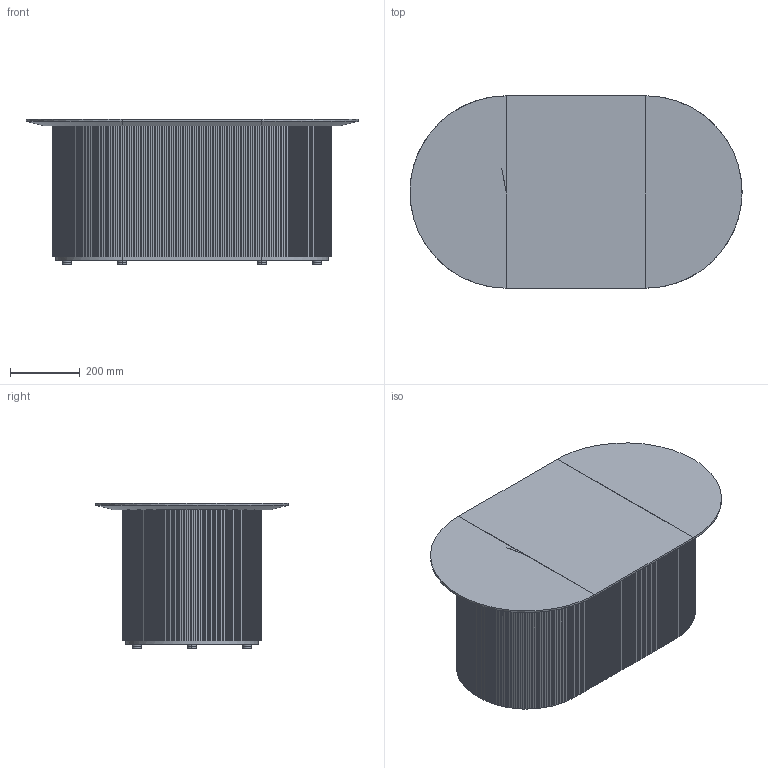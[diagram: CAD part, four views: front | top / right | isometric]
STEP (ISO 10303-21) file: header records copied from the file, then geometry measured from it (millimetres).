
FILE_DESCRIPTION(/* description */ (''),/* implementation_level */ '2;1');
FILE_NAME(/* name */ 'PKIA4Q~6',/* time_stamp */ '2018-07-23T13:54:49+02:00',/* author */ (''),/* organization */ (''),/* preprocessor_version */ 'ST-DEVELOPER v15',/* originating_system */ '',/* authorisation */ '');
FILE_SCHEMA (('AUTOMOTIVE_DESIGN'));
Length unit declared in the file: millimetre
Products named in the file (1): Document
Bounding box: 949.89 x 549.98 x 417.04 mm (x, y, z)
Volume: 16327439.6 mm3; surface area: 3851520.3 mm2
Topology: 10 solids, 12 shells, 921 faces, 2669 edges, 1778 vertices
Faces by surface type: bspline 921
Entity records: 61611 total; most frequent: CARTESIAN_POINT 28141, B_SPLINE_CURVE_WITH_KNOTS 6929, ORIENTED_EDGE 5306, PCURVE 5306, DEFINITIONAL_REPRESENTATION 5306, SURFACE_CURVE 2665, EDGE_CURVE 2665, VERTEX_POINT 1778
